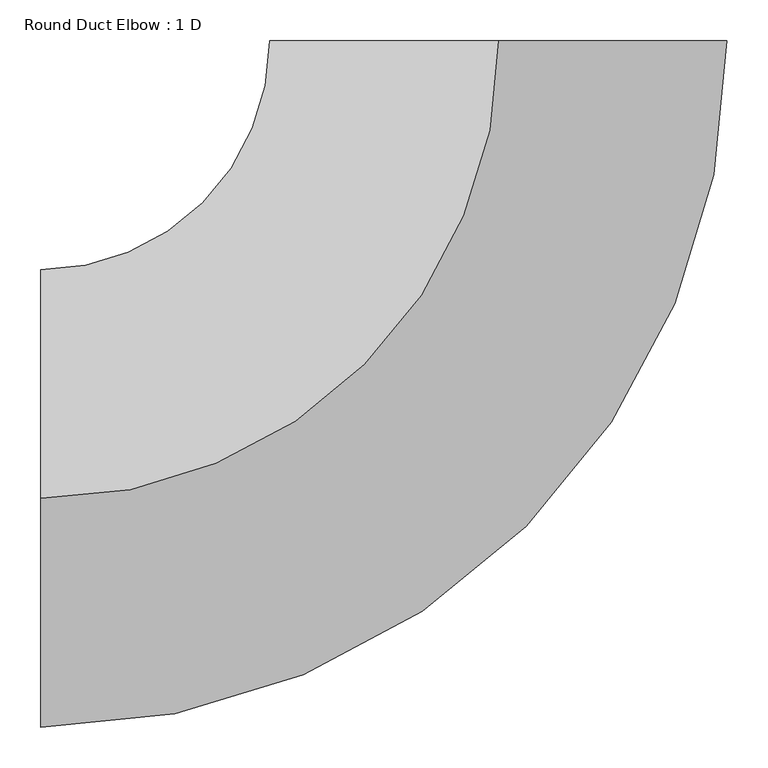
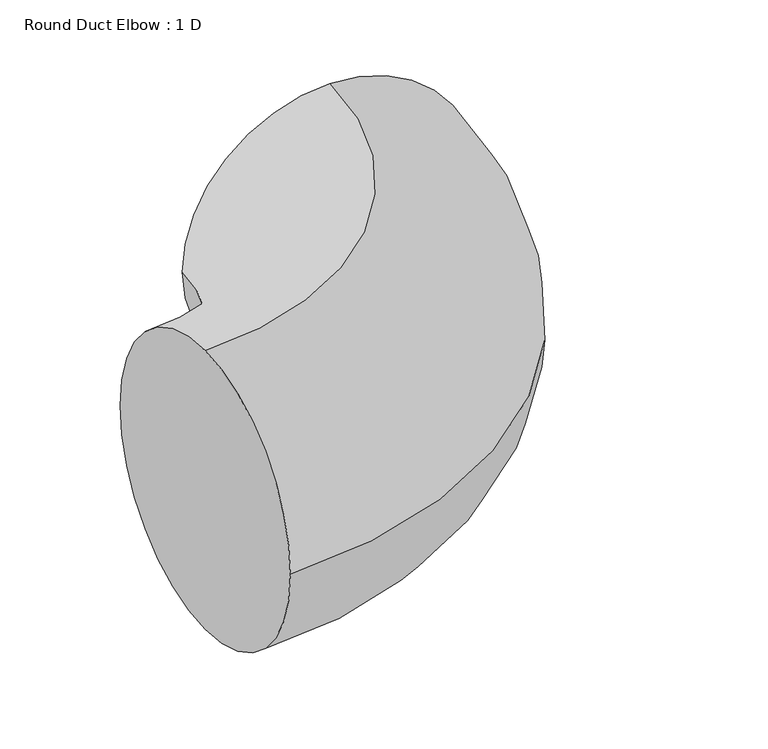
"""IFC4 building model written with IfcOpenShell, lengths in millimetres: duct fitting geometry, Round Duct Elbow : 1 D."""

from ifc_helpers import new_model, si_unit, point, frame, origin, place, context, project, spatial, circle_curve, ellipse_curve, trimmed, source, transform, mapped, element, save
from ifc_brep_helpers import plane_surface, revolved_surface, advanced_brep


def round_duct_elbow_1_d_d87bec81(model_context):
    return source(origin(), model_context, "Body", "AdvancedBrep", [
        advanced_brep(
        [(-558.8, 0.0, 279.4), (-558.8, 279.4, 0.0), (-558.8, 0.0, -279.4), (-558.8, -279.4, 0.0), (0.0, 558.8, 279.4), (279.4, 558.8, 0.0), (0.0, 558.8, -279.4), (-279.4, 558.8, 0.0)],
        [
            (0, 1, circle_curve(frame((-558.8, 0.0, 0.0), z_axis=(-1.0, 0.0, 0.0), x_axis=(0.0, 1.0, 0.0)), 279.4)),
            (1, 2, circle_curve(frame((-558.8, 0.0, 0.0), z_axis=(-1.0, 0.0, 0.0), x_axis=(0.0, 1.0, 0.0)), 279.4)),
            (2, 3, circle_curve(frame((-558.8, 0.0, 0.0), z_axis=(-1.0, 0.0, 0.0), x_axis=(0.0, 1.0, 0.0)), 279.4)),
            (3, 0, circle_curve(frame((-558.8, 0.0, 0.0), z_axis=(-1.0, 0.0, 0.0), x_axis=(0.0, 1.0, 0.0)), 279.4)),
            (4, 5, circle_curve(frame((0.0, 558.8, 0.0), z_axis=(0.0, 1.0, 0.0), x_axis=(-1.0, 0.0, 0.0)), 279.4)),
            (5, 6, circle_curve(frame((0.0, 558.8, 0.0), z_axis=(0.0, 1.0, 0.0), x_axis=(-1.0, 0.0, 0.0)), 279.4)),
            (6, 7, circle_curve(frame((0.0, 558.8, 0.0), z_axis=(0.0, 1.0, 0.0), x_axis=(-1.0, 0.0, 0.0)), 279.4)),
            (7, 4, circle_curve(frame((0.0, 558.8, 0.0), z_axis=(0.0, 1.0, 0.0), x_axis=(-1.0, 0.0, 0.0)), 279.4)),
            (7, 1, circle_curve(frame((-558.8, 558.8, 0.0), z_axis=(0.0, 0.0, -1.0), x_axis=(0.0, -1.0, 0.0)), 279.4)),
            (0, 4, circle_curve(frame((-558.8, 558.8, 279.4), z_axis=(0.0, 0.0, 1.0), x_axis=(0.0, -1.0, 0.0)), 558.8)),
            (6, 2, circle_curve(frame((-558.8, 558.8, -279.4), z_axis=(0.0, 0.0, -1.0), x_axis=(0.0, -1.0, 0.0)), 558.8)),
            (5, 3, circle_curve(frame((-558.8, 558.8, 0.0), z_axis=(0.0, 0.0, -1.0), x_axis=(0.0, -1.0, 0.0)), 838.2)),
        ],
        [
            plane_surface(frame((-558.8, 0.0, 0.0), z_axis=(-1.0, 0.0, 0.0), x_axis=(0.0, 0.0, 1.0))),
            plane_surface(frame((0.0, 558.8, 0.0), z_axis=(0.0, 1.0, 0.0), x_axis=(0.0, 0.0, 1.0))),
            revolved_surface(trimmed(ellipse_curve(frame((-558.8, 0.0, 0.0), z_axis=(-1.0, 0.0, 0.0), x_axis=(0.0, 1.0, 0.0)), 279.4, 279.4), [point((-558.8, 0.0, 279.4))], [point((-558.8, 279.4, 0.0))], True, "CARTESIAN"), (-558.8, 558.8, 0.0), (0.0, 0.0, 1.0)),
            revolved_surface(trimmed(ellipse_curve(frame((-558.8, 0.0, 0.0), z_axis=(-1.0, 0.0, 0.0), x_axis=(0.0, 1.0, 0.0)), 279.4, 279.4), [point((-558.8, 279.4, 0.0))], [point((-558.8, 0.0, -279.4))], True, "CARTESIAN"), (-558.8, 558.8, 0.0), (0.0, 0.0, 1.0)),
            revolved_surface(trimmed(ellipse_curve(frame((-558.8, 0.0, 0.0), z_axis=(-1.0, 0.0, 0.0), x_axis=(0.0, 1.0, 0.0)), 279.4, 279.4), [point((-558.8, 0.0, -279.4))], [point((-558.8, -279.4, 0.0))], True, "CARTESIAN"), (-558.8, 558.8, 0.0), (0.0, 0.0, 1.0)),
            revolved_surface(trimmed(ellipse_curve(frame((-558.8, 0.0, 0.0), z_axis=(-1.0, 0.0, 0.0), x_axis=(0.0, 1.0, 0.0)), 279.4, 279.4), [point((-558.8, -279.4, 0.0))], [point((-558.8, 0.0, 279.4))], True, "CARTESIAN"), (-558.8, 558.8, 0.0), (0.0, 0.0, 1.0)),
        ],
        [
            (0, [[1, 2, 3, 4]]),
            (1, [[5, 6, 7, 8]]),
            (2, [[9, -1, 10, -8]]),
            (3, [[11, -2, -9, -7]]),
            (4, [[12, -3, -11, -6]]),
            (5, [[-10, -4, -12, -5]]),
        ],
    ),
        advanced_brep(
        [(-558.8, 0.0, 279.4), (-558.8, 279.4, 0.0), (-558.8, 0.0, -279.4), (-558.8, -279.4, 0.0), (0.0, 558.8, 279.4), (279.4, 558.8, 0.0), (0.0, 558.8, -279.4), (-279.4, 558.8, 0.0)],
        [
            (0, 1, circle_curve(frame((-558.8, 0.0, 0.0), z_axis=(-1.0, 0.0, 0.0), x_axis=(0.0, 1.0, 0.0)), 279.4)),
            (1, 2, circle_curve(frame((-558.8, 0.0, 0.0), z_axis=(-1.0, 0.0, 0.0), x_axis=(0.0, 1.0, 0.0)), 279.4)),
            (2, 3, circle_curve(frame((-558.8, 0.0, 0.0), z_axis=(-1.0, 0.0, 0.0), x_axis=(0.0, 1.0, 0.0)), 279.4)),
            (3, 0, circle_curve(frame((-558.8, 0.0, 0.0), z_axis=(-1.0, 0.0, 0.0), x_axis=(0.0, 1.0, 0.0)), 279.4)),
            (4, 5, circle_curve(frame((0.0, 558.8, 0.0), z_axis=(0.0, 1.0, 0.0), x_axis=(-1.0, 0.0, 0.0)), 279.4)),
            (5, 6, circle_curve(frame((0.0, 558.8, 0.0), z_axis=(0.0, 1.0, 0.0), x_axis=(-1.0, 0.0, 0.0)), 279.4)),
            (6, 7, circle_curve(frame((0.0, 558.8, 0.0), z_axis=(0.0, 1.0, 0.0), x_axis=(-1.0, 0.0, 0.0)), 279.4)),
            (7, 4, circle_curve(frame((0.0, 558.8, 0.0), z_axis=(0.0, 1.0, 0.0), x_axis=(-1.0, 0.0, 0.0)), 279.4)),
            (7, 1, circle_curve(frame((-558.8, 558.8, 0.0), z_axis=(0.0, 0.0, -1.0), x_axis=(0.0, -1.0, 0.0)), 279.4)),
            (0, 4, circle_curve(frame((-558.8, 558.8, 279.4), z_axis=(0.0, 0.0, 1.0), x_axis=(0.0, -1.0, 0.0)), 558.8)),
            (6, 2, circle_curve(frame((-558.8, 558.8, -279.4), z_axis=(0.0, 0.0, -1.0), x_axis=(0.0, -1.0, 0.0)), 558.8)),
            (5, 3, circle_curve(frame((-558.8, 558.8, 0.0), z_axis=(0.0, 0.0, -1.0), x_axis=(0.0, -1.0, 0.0)), 838.2)),
        ],
        [
            plane_surface(frame((-558.8, 0.0, 0.0), z_axis=(-1.0, 0.0, 0.0), x_axis=(0.0, 0.0, 1.0))),
            plane_surface(frame((0.0, 558.8, 0.0), z_axis=(0.0, 1.0, 0.0), x_axis=(0.0, 0.0, 1.0))),
            revolved_surface(trimmed(ellipse_curve(frame((-558.8, 0.0, 0.0), z_axis=(-1.0, 0.0, 0.0), x_axis=(0.0, 1.0, 0.0)), 279.4, 279.4), [point((-558.8, 0.0, 279.4))], [point((-558.8, 279.4, 0.0))], True, "CARTESIAN"), (-558.8, 558.8, 0.0), (0.0, 0.0, 1.0)),
            revolved_surface(trimmed(ellipse_curve(frame((-558.8, 0.0, 0.0), z_axis=(-1.0, 0.0, 0.0), x_axis=(0.0, 1.0, 0.0)), 279.4, 279.4), [point((-558.8, 279.4, 0.0))], [point((-558.8, 0.0, -279.4))], True, "CARTESIAN"), (-558.8, 558.8, 0.0), (0.0, 0.0, 1.0)),
            revolved_surface(trimmed(ellipse_curve(frame((-558.8, 0.0, 0.0), z_axis=(-1.0, 0.0, 0.0), x_axis=(0.0, 1.0, 0.0)), 279.4, 279.4), [point((-558.8, 0.0, -279.4))], [point((-558.8, -279.4, 0.0))], True, "CARTESIAN"), (-558.8, 558.8, 0.0), (0.0, 0.0, 1.0)),
            revolved_surface(trimmed(ellipse_curve(frame((-558.8, 0.0, 0.0), z_axis=(-1.0, 0.0, 0.0), x_axis=(0.0, 1.0, 0.0)), 279.4, 279.4), [point((-558.8, -279.4, 0.0))], [point((-558.8, 0.0, 279.4))], True, "CARTESIAN"), (-558.8, 558.8, 0.0), (0.0, 0.0, 1.0)),
        ],
        [
            (0, [[1, 2, 3, 4]]),
            (1, [[5, 6, 7, 8]]),
            (2, [[9, -1, 10, -8]]),
            (3, [[11, -2, -9, -7]]),
            (4, [[12, -3, -11, -6]]),
            (5, [[-10, -4, -12, -5]]),
        ],
    ),
        advanced_brep(
        [(-558.8, 0.0, 279.4), (-558.8, 279.4, 0.0), (-558.8, 0.0, -279.4), (-558.8, -279.4, 0.0), (0.0, 558.8, 279.4), (279.4, 558.8, 0.0), (0.0, 558.8, -279.4), (-279.4, 558.8, 0.0)],
        [
            (0, 1, circle_curve(frame((-558.8, 0.0, 0.0), z_axis=(-1.0, 0.0, 0.0), x_axis=(0.0, 1.0, 0.0)), 279.4)),
            (1, 2, circle_curve(frame((-558.8, 0.0, 0.0), z_axis=(-1.0, 0.0, 0.0), x_axis=(0.0, 1.0, 0.0)), 279.4)),
            (2, 3, circle_curve(frame((-558.8, 0.0, 0.0), z_axis=(-1.0, 0.0, 0.0), x_axis=(0.0, 1.0, 0.0)), 279.4)),
            (3, 0, circle_curve(frame((-558.8, 0.0, 0.0), z_axis=(-1.0, 0.0, 0.0), x_axis=(0.0, 1.0, 0.0)), 279.4)),
            (4, 5, circle_curve(frame((0.0, 558.8, 0.0), z_axis=(0.0, 1.0, 0.0), x_axis=(-1.0, 0.0, 0.0)), 279.4)),
            (5, 6, circle_curve(frame((0.0, 558.8, 0.0), z_axis=(0.0, 1.0, 0.0), x_axis=(-1.0, 0.0, 0.0)), 279.4)),
            (6, 7, circle_curve(frame((0.0, 558.8, 0.0), z_axis=(0.0, 1.0, 0.0), x_axis=(-1.0, 0.0, 0.0)), 279.4)),
            (7, 4, circle_curve(frame((0.0, 558.8, 0.0), z_axis=(0.0, 1.0, 0.0), x_axis=(-1.0, 0.0, 0.0)), 279.4)),
            (7, 1, circle_curve(frame((-558.8, 558.8, 0.0), z_axis=(0.0, 0.0, -1.0), x_axis=(0.0, -1.0, 0.0)), 279.4)),
            (0, 4, circle_curve(frame((-558.8, 558.8, 279.4), z_axis=(0.0, 0.0, 1.0), x_axis=(0.0, -1.0, 0.0)), 558.8)),
            (6, 2, circle_curve(frame((-558.8, 558.8, -279.4), z_axis=(0.0, 0.0, -1.0), x_axis=(0.0, -1.0, 0.0)), 558.8)),
            (5, 3, circle_curve(frame((-558.8, 558.8, 0.0), z_axis=(0.0, 0.0, -1.0), x_axis=(0.0, -1.0, 0.0)), 838.2)),
        ],
        [
            plane_surface(frame((-558.8, 0.0, 0.0), z_axis=(-1.0, 0.0, 0.0), x_axis=(0.0, 0.0, 1.0))),
            plane_surface(frame((0.0, 558.8, 0.0), z_axis=(0.0, 1.0, 0.0), x_axis=(0.0, 0.0, 1.0))),
            revolved_surface(trimmed(ellipse_curve(frame((-558.8, 0.0, 0.0), z_axis=(-1.0, 0.0, 0.0), x_axis=(0.0, 1.0, 0.0)), 279.4, 279.4), [point((-558.8, 0.0, 279.4))], [point((-558.8, 279.4, 0.0))], True, "CARTESIAN"), (-558.8, 558.8, 0.0), (0.0, 0.0, 1.0)),
            revolved_surface(trimmed(ellipse_curve(frame((-558.8, 0.0, 0.0), z_axis=(-1.0, 0.0, 0.0), x_axis=(0.0, 1.0, 0.0)), 279.4, 279.4), [point((-558.8, 279.4, 0.0))], [point((-558.8, 0.0, -279.4))], True, "CARTESIAN"), (-558.8, 558.8, 0.0), (0.0, 0.0, 1.0)),
            revolved_surface(trimmed(ellipse_curve(frame((-558.8, 0.0, 0.0), z_axis=(-1.0, 0.0, 0.0), x_axis=(0.0, 1.0, 0.0)), 279.4, 279.4), [point((-558.8, 0.0, -279.4))], [point((-558.8, -279.4, 0.0))], True, "CARTESIAN"), (-558.8, 558.8, 0.0), (0.0, 0.0, 1.0)),
            revolved_surface(trimmed(ellipse_curve(frame((-558.8, 0.0, 0.0), z_axis=(-1.0, 0.0, 0.0), x_axis=(0.0, 1.0, 0.0)), 279.4, 279.4), [point((-558.8, -279.4, 0.0))], [point((-558.8, 0.0, 279.4))], True, "CARTESIAN"), (-558.8, 558.8, 0.0), (0.0, 0.0, 1.0)),
        ],
        [
            (0, [[1, 2, 3, 4]]),
            (1, [[5, 6, 7, 8]]),
            (2, [[9, -1, 10, -8]]),
            (3, [[11, -2, -9, -7]]),
            (4, [[12, -3, -11, -6]]),
            (5, [[-10, -4, -12, -5]]),
        ],
    ),
    ])


if __name__ == "__main__":
    model = new_model("IFC4")
    model_context = context("Model", 3, world=origin())
    ifc_project = project(units=[si_unit("LENGTHUNIT", "METRE", prefix="MILLI")], contexts=[model_context])
    site = spatial("IfcSite", under=ifc_project)
    building = spatial("IfcBuilding", under=site)
    placement = place(None, origin())
    round_duct_elbow_1_d_shape = round_duct_elbow_1_d_d87bec81(model_context)
    element("IfcDuctFitting", 1, ObjectType="Round Duct Elbow : 1 D", at=placement, inside=building, context=model_context, shape_type="MappedRepresentation", body=[
        mapped(round_duct_elbow_1_d_shape, transform((0.0, 0.0, 0.0), x_axis=(1.0, 0.0, 0.0), y_axis=(0.0, 1.0, 0.0), z_axis=(0.0, 0.0, 1.0))),
    ])
    save(model, "model.ifc")
